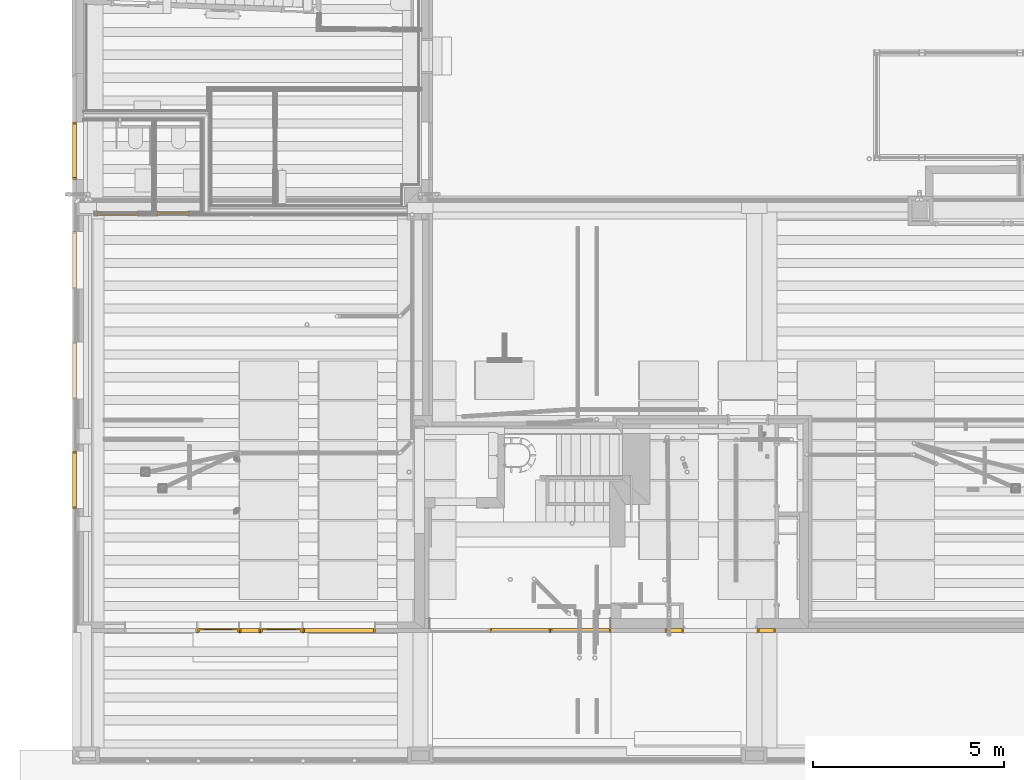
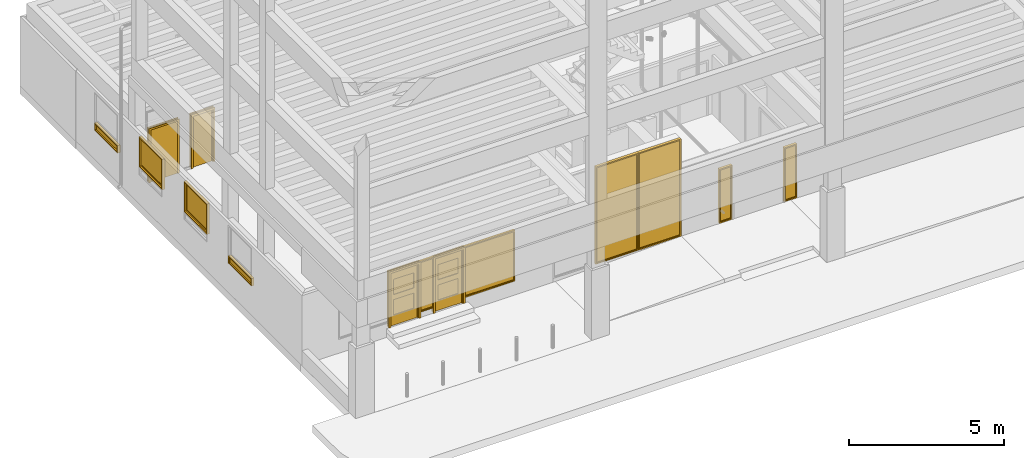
# One storey, part 27 of 106: 10 windows, 4 doors.
"""IFC2X3 building model written with IfcOpenShell, lengths in metres."""

import ifcopenshell
import ifcopenshell.guid

model = None  # the IFC model being written
_history = None  # IfcOwnerHistory: only IFC2X3 demands one
_inside = {}  # id of a spatial element -> (the spatial element, [elements in it])
_under = {}  # id of a project, library or spatial element -> (it, [spatial elements below it])
_declared = {}  # id of a project -> (the project, [libraries it declares])
_typed = {}  # id of a type object -> (the type object, [elements of that type])
_made_of = {}  # id of a material, layer set ... -> (it, [elements and type objects made of it])


def new_model(schema):
    """Start an empty IFC model of exactly this schema.

    Asked for "IFC4X3", IfcOpenShell would pick the latest addendum, in which some entities
    have other attributes; the version numbers below select the first issue.
    IFC2X3 requires an IfcOwnerHistory on every rooted entity: one is made here for all.
    """
    global model, _history
    if schema == "IFC4X3":
        model = ifcopenshell.file(schema_version=(4, 3, 0, 0))
    else:
        model = ifcopenshell.file(schema=schema)
    _inside.clear()
    _under.clear()
    _declared.clear()
    _typed.clear()
    _made_of.clear()
    _history = None
    if model.schema == "IFC2X3":
        org = make("IfcOrganization", Name="unknown")
        user = make(
            "IfcPersonAndOrganization",
            ThePerson=make("IfcPerson", FamilyName="unknown"),
            TheOrganization=org,
        )
        app = make(
            "IfcApplication",
            ApplicationDeveloper=org,
            Version="unknown",
            ApplicationFullName="unknown",
            ApplicationIdentifier="unknown",
        )
        _history = make(
            "IfcOwnerHistory",
            OwningUser=user,
            OwningApplication=app,
            ChangeAction="ADDED",
            CreationDate=0,
        )
    return model


def make(cls, **values):
    """One entity of the class cls with the attributes given. An attribute that is None is left unset."""
    return model.create_entity(
        cls, **{name: value for name, value in values.items() if value is not None}
    )


def entity(cls, *values):
    """Any entity or typed value of the class cls, its attributes in the order of the schema. None: left unset."""
    e = model.create_entity(cls)
    for i, value in enumerate(values):
        if value is not None:
            e[i] = value
    return e


def rooted(cls, **values):
    """An entity with a GlobalId (a new one), such as an element, a storey or a relation."""
    return make(cls, GlobalId=ifcopenshell.guid.new(), OwnerHistory=_history, **values)


def si_unit(unit_type, name, prefix=None):
    """IfcSIUnit, for example si_unit("LENGTHUNIT", "METRE", prefix="MILLI")."""
    return make("IfcSIUnit", UnitType=unit_type, Prefix=prefix, Name=name)


def converted_unit(unit_type, name, factor, base, dimensions=None, offset=None):
    """IfcConversionBasedUnit, such as the inch: factor (a typed value) times the base unit."""
    return make(
        "IfcConversionBasedUnit"
        if offset is None
        else "IfcConversionBasedUnitWithOffset",
        ConversionOffset=offset,
        Dimensions=None
        if dimensions is None
        else entity("IfcDimensionalExponents", *dimensions),
        UnitType=unit_type,
        Name=name,
        ConversionFactor=make(
            "IfcMeasureWithUnit", ValueComponent=factor, UnitComponent=base
        ),
    )


def derived_unit(unit_type, elements):
    """IfcDerivedUnit: a product of units, each with its exponent."""
    return make(
        "IfcDerivedUnit",
        Elements=[
            make("IfcDerivedUnitElement", Unit=unit, Exponent=power)
            for unit, power in elements
        ],
        UnitType=unit_type,
    )


def money_unit(currency):
    """IfcMonetaryUnit."""
    return make("IfcMonetaryUnit", Currency=currency)


def assignment(units):
    """IfcUnitAssignment: the units of a project."""
    return None if units is None else make("IfcUnitAssignment", Units=units)


def point(xyz):
    """IfcCartesianPoint."""
    return None if xyz is None else make("IfcCartesianPoint", Coordinates=xyz)


def direction(xyz):
    """IfcDirection."""
    return None if xyz is None else make("IfcDirection", DirectionRatios=xyz)


def frame(location, z_axis=None, x_axis=None):
    """IfcAxis2Placement3D, a coordinate frame: its origin and axes. An axis left out is left unset."""
    return make(
        "IfcAxis2Placement3D",
        Location=point(location),
        Axis=direction(z_axis),
        RefDirection=direction(x_axis),
    )


def origin_with_axes():
    """The frame at (0, 0, 0) with the z axis (0, 0, 1) and the x axis (1, 0, 0) written out."""
    return frame((0.0, 0.0, 0.0), z_axis=(0.0, 0.0, 1.0), x_axis=(1.0, 0.0, 0.0))


def place(relative_to, where):
    """IfcLocalPlacement: puts the frame where relative to a parent placement (None: the world)."""
    return make(
        "IfcLocalPlacement", PlacementRelTo=relative_to, RelativePlacement=where
    )


def context(
    kind, dimensions, precision=None, world=None, true_north=None, identifier=None
):
    """IfcGeometricRepresentationContext, for example the 3D "Model" context."""
    return make(
        "IfcGeometricRepresentationContext",
        ContextIdentifier=identifier,
        ContextType=kind,
        CoordinateSpaceDimension=dimensions,
        Precision=precision,
        WorldCoordinateSystem=world,
        TrueNorth=true_north,
    )


def subcontext(parent, identifier, kind, view, scale=None):
    """IfcGeometricRepresentationSubContext, for example "Body" below "Model"."""
    return make(
        "IfcGeometricRepresentationSubContext",
        ContextIdentifier=identifier,
        ContextType=kind,
        ParentContext=parent,
        TargetScale=scale,
        TargetView=view,
    )


def project(units=None, contexts=None):
    """IfcProject with its units and contexts."""
    return rooted(
        "IfcProject",
        Name="project",
        RepresentationContexts=contexts,
        UnitsInContext=assignment(units),
    )


def spatial(cls, under=None, at=None, **own):
    """A site, building, storey or space (cls), placed at a placement, below another one or the project."""
    s = rooted(cls, ObjectPlacement=at, **own)
    if under is not None:
        _under.setdefault(under.id(), (under, []))[1].append(s)
    return s


def faces_of(points, faces, orient=None, outer=None):
    """IfcFace entities. A face is a list of loops; a loop is a list of indices into points, from 0.

    orient and outer hold one flag for each loop. By default every Orientation is true, the
    first loop of a face is its IfcFaceOuterBound and the others are IfcFaceBound.
    """
    made = []
    for i, loops in enumerate(faces):
        bounds = []
        for j, loop in enumerate(loops):
            is_outer = j == 0 if outer is None else outer[i][j]
            bounds.append(
                make(
                    "IfcFaceOuterBound" if is_outer else "IfcFaceBound",
                    Bound=make("IfcPolyLoop", Polygon=[points[k] for k in loop]),
                    Orientation=True if orient is None else orient[i][j],
                )
            )
        made.append(make("IfcFace", Bounds=bounds))
    return made


def faceted_brep(points, faces, orient=None, outer=None, voids=None):
    """IfcFacetedBrep: a solid bounded by flat faces; with voids (closed shells), ...WithVoids."""
    shared = [point(p) for p in points]
    hull = make("IfcClosedShell", CfsFaces=faces_of(shared, faces, orient, outer))
    if voids is None:
        return make("IfcFacetedBrep", Outer=hull)
    return make(
        "IfcFacetedBrepWithVoids",
        Outer=hull,
        Voids=[
            make(cls, CfsFaces=faces_of(shared, fs, o, b)) for cls, fs, o, b in voids
        ],
    )


def shape(context_of_items, identifier, shape_type, items):
    """IfcShapeRepresentation: the items that make up one representation, for example the "Body"."""
    return make(
        "IfcShapeRepresentation",
        ContextOfItems=context_of_items,
        RepresentationIdentifier=identifier,
        RepresentationType=shape_type,
        Items=items,
    )


def material(Name=None, Category=None):
    """IfcMaterial."""
    return make("IfcMaterial", Name=Name, Category=Category)


def made_of(thing, what):
    """Note that an element or type object is made of a material, layer set ...; save() writes the relation."""
    if what is not None:
        _made_of.setdefault(what.id(), (what, []))[1].append(thing)
    return thing


def type_object(cls, material=None, **own):
    """A type object (cls), such as IfcWallType, which elements share."""
    return made_of(rooted(cls, **own), material)


def element(
    cls,
    number,
    at=None,
    inside=None,
    cuts=None,
    type_object=None,
    material=None,
    context=None,
    identifier="Body",
    shape_type=None,
    held_by="IfcProductDefinitionShape",
    body=None,
    shapes=None,
    **own,
):
    """One element of the class cls, such as IfcWall. Its Tag is "e" and its number.

    at: its placement. inside: the storey or other place that contains it. cuts: it is an
    opening in that element (IfcRelVoidsElement). A single representation is given by context,
    identifier, shape_type and body (its items); several are given by shapes. held_by: the class
    of the entity that holds the representations. save() writes the other relations.
    """
    e = rooted(cls, Tag="e%d" % number, ObjectPlacement=at, **own)
    if body is not None:
        shapes = [shape(context, identifier, shape_type, body)]
    if shapes is not None:
        e.Representation = make(held_by, Representations=shapes)
    if inside is not None:
        _inside.setdefault(inside.id(), (inside, []))[1].append(e)
    if cuts is not None:
        rooted(
            "IfcRelVoidsElement", RelatingBuildingElement=cuts, RelatedOpeningElement=e
        )
    if type_object is not None:
        _typed.setdefault(type_object.id(), (type_object, []))[1].append(e)
    return made_of(e, material)


def aggregate(whole, parts):
    """IfcRelAggregates: a whole, such as a stair, and the parts it consists of."""
    return rooted("IfcRelAggregates", RelatingObject=whole, RelatedObjects=parts)


def save(model, path):
    """Write the relations noted so far, then the file.

    IfcRelAggregates (storeys below a building ...), IfcRelContainedInSpatialStructure (elements
    in a storey), IfcRelDefinesByType, IfcRelAssociatesMaterial and IfcRelDeclares: one each for
    every whole, place, type object, material and project.
    """
    for whole, parts in _under.values():
        aggregate(whole, parts)
    for where, things in _inside.values():
        rooted(
            "IfcRelContainedInSpatialStructure",
            RelatedElements=things,
            RelatingStructure=where,
        )
    for kind, things in _typed.values():
        rooted("IfcRelDefinesByType", RelatedObjects=things, RelatingType=kind)
    for what, things in _made_of.values():
        rooted("IfcRelAssociatesMaterial", RelatedObjects=things, RelatingMaterial=what)
    for by, libraries in _declared.values():
        rooted("IfcRelDeclares", RelatingContext=by, RelatedDefinitions=libraries)
    model.write(path)


model = new_model("IFC2X3")

# Units and contexts
model_context = context("Model", 3, precision=1e-05, world=origin_with_axes(), true_north=direction((0.0, 1.0)))
body_context = subcontext(model_context, "Body", "Model", "MODEL_VIEW", scale=1.0)
ifc_project = project(units=[si_unit("LENGTHUNIT", "METRE"), si_unit("AREAUNIT", "SQUARE_METRE"), si_unit("VOLUMEUNIT", "CUBIC_METRE"), si_unit("ABSORBEDDOSEUNIT", "GRAY"), si_unit("AMOUNTOFSUBSTANCEUNIT", "MOLE"), si_unit("DOSEEQUIVALENTUNIT", "SIEVERT"), si_unit("ELECTRICCAPACITANCEUNIT", "FARAD"), si_unit("ELECTRICCHARGEUNIT", "COULOMB"), si_unit("ELECTRICCONDUCTANCEUNIT", "SIEMENS"), si_unit("ELECTRICCURRENTUNIT", "AMPERE"), si_unit("ELECTRICRESISTANCEUNIT", "OHM"), si_unit("ELECTRICVOLTAGEUNIT", "VOLT"), si_unit("ENERGYUNIT", "JOULE"), si_unit("FORCEUNIT", "NEWTON"), si_unit("FREQUENCYUNIT", "HERTZ"), si_unit("ILLUMINANCEUNIT", "LUX"), si_unit("INDUCTANCEUNIT", "HENRY"), si_unit("LUMINOUSFLUXUNIT", "LUMEN"), si_unit("LUMINOUSINTENSITYUNIT", "CANDELA"), si_unit("MAGNETICFLUXDENSITYUNIT", "TESLA"), si_unit("MAGNETICFLUXUNIT", "WEBER"), si_unit("MASSUNIT", "GRAM"), converted_unit("PLANEANGLEUNIT", "degree", entity("IfcReal", 0.0174532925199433), si_unit("PLANEANGLEUNIT", "RADIAN"), dimensions=[0, 0, 0, 0, 0, 0, 0]), si_unit("POWERUNIT", "WATT"), si_unit("PRESSUREUNIT", "PASCAL"), si_unit("RADIOACTIVITYUNIT", "BECQUEREL"), si_unit("SOLIDANGLEUNIT", "STERADIAN"), si_unit("THERMODYNAMICTEMPERATUREUNIT", "KELVIN"), si_unit("TIMEUNIT", "SECOND"), derived_unit("ACCELERATIONUNIT", [(si_unit("LENGTHUNIT", "METRE"), 1), (si_unit("TIMEUNIT", "SECOND"), -2)]), derived_unit("ANGULARVELOCITYUNIT", [(converted_unit("PLANEANGLEUNIT", "degree", entity("IfcReal", 0.0174532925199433), si_unit("PLANEANGLEUNIT", "RADIAN"), dimensions=[0, 0, 0, 0, 0, 0, 0]), 1), (si_unit("TIMEUNIT", "SECOND"), -1)]), derived_unit("CURVATUREUNIT", [(converted_unit("PLANEANGLEUNIT", "degree", entity("IfcReal", 0.0174532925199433), si_unit("PLANEANGLEUNIT", "RADIAN"), dimensions=[0, 0, 0, 0, 0, 0, 0]), 1), (si_unit("LENGTHUNIT", "METRE"), -1)]), derived_unit("DYNAMICVISCOSITYUNIT", [(si_unit("PRESSUREUNIT", "PASCAL"), 1), (si_unit("TIMEUNIT", "SECOND"), 1)]), derived_unit("HEATFLUXDENSITYUNIT", [(si_unit("POWERUNIT", "WATT"), 1), (si_unit("LENGTHUNIT", "METRE"), -2)]), derived_unit("HEATINGVALUEUNIT", [(si_unit("ENERGYUNIT", "JOULE"), 1), (si_unit("MASSUNIT", "GRAM"), -1)]), derived_unit("INTEGERCOUNTRATEUNIT", [(si_unit("TIMEUNIT", "SECOND"), -1)]), derived_unit("IONCONCENTRATIONUNIT", [(si_unit("MASSUNIT", "GRAM"), 1), (si_unit("VOLUMEUNIT", "CUBIC_METRE"), -1)]), derived_unit("ISOTHERMALMOISTURECAPACITYUNIT", [(si_unit("VOLUMEUNIT", "CUBIC_METRE"), 1), (si_unit("MASSUNIT", "GRAM"), -1)]), derived_unit("KINEMATICVISCOSITYUNIT", [(si_unit("AREAUNIT", "SQUARE_METRE"), 1), (si_unit("TIMEUNIT", "SECOND"), -1)]), derived_unit("LINEARFORCEUNIT", [(si_unit("FORCEUNIT", "NEWTON"), 1), (si_unit("LENGTHUNIT", "METRE"), -1)]), derived_unit("LINEARMOMENTUNIT", [(si_unit("FORCEUNIT", "NEWTON"), 1), (si_unit("LENGTHUNIT", "METRE"), -1)]), derived_unit("LINEARSTIFFNESSUNIT", [(si_unit("FORCEUNIT", "NEWTON"), 1), (si_unit("LENGTHUNIT", "METRE"), -1)]), derived_unit("LINEARVELOCITYUNIT", [(si_unit("LENGTHUNIT", "METRE"), 1), (si_unit("TIMEUNIT", "SECOND"), -1)]), derived_unit("LUMINOUSINTENSITYDISTRIBUTIONUNIT", [(si_unit("LUMINOUSINTENSITYUNIT", "CANDELA"), 1), (si_unit("LUMINOUSFLUXUNIT", "LUMEN"), -1)]), derived_unit("MASSDENSITYUNIT", [(si_unit("MASSUNIT", "GRAM"), 1), (si_unit("VOLUMEUNIT", "CUBIC_METRE"), -1)]), derived_unit("MASSFLOWRATEUNIT", [(si_unit("MASSUNIT", "GRAM"), 1), (si_unit("TIMEUNIT", "SECOND"), -1)]), derived_unit("MASSPERLENGTHUNIT", [(si_unit("MASSUNIT", "GRAM"), 1), (si_unit("LENGTHUNIT", "METRE"), -1)]), derived_unit("MODULUSOFELASTICITYUNIT", [(si_unit("FORCEUNIT", "NEWTON"), 1), (si_unit("AREAUNIT", "SQUARE_METRE"), -1)]), derived_unit("MODULUSOFLINEARSUBGRADEREACTIONUNIT", [(si_unit("FORCEUNIT", "NEWTON"), 1), (si_unit("LENGTHUNIT", "METRE"), -2)]), derived_unit("MODULUSOFROTATIONALSUBGRADEREACTIONUNIT", [(si_unit("FORCEUNIT", "NEWTON"), 1), (si_unit("LENGTHUNIT", "METRE"), 1)]), derived_unit("MODULUSOFSUBGRADEREACTIONUNIT", [(si_unit("FORCEUNIT", "NEWTON"), 1), (si_unit("VOLUMEUNIT", "CUBIC_METRE"), -1)]), derived_unit("MOISTUREDIFFUSIVITYUNIT", [(si_unit("VOLUMEUNIT", "CUBIC_METRE"), 1), (si_unit("TIMEUNIT", "SECOND"), -1)]), derived_unit("MOLECULARWEIGHTUNIT", [(si_unit("MASSUNIT", "GRAM"), 1), (si_unit("AMOUNTOFSUBSTANCEUNIT", "MOLE"), -1)]), derived_unit("PLANARFORCEUNIT", [(si_unit("FORCEUNIT", "NEWTON"), 1), (si_unit("LENGTHUNIT", "METRE"), -2)]), derived_unit("ROTATIONALFREQUENCYUNIT", [(si_unit("TIMEUNIT", "SECOND"), -1)]), derived_unit("ROTATIONALMASSUNIT", [(si_unit("MASSUNIT", "GRAM"), 1), (si_unit("LENGTHUNIT", "METRE"), 2)]), derived_unit("ROTATIONALSTIFFNESSUNIT", [(si_unit("FORCEUNIT", "NEWTON"), 1), (si_unit("LENGTHUNIT", "METRE"), 1), (converted_unit("PLANEANGLEUNIT", "degree", entity("IfcReal", 0.0174532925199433), si_unit("PLANEANGLEUNIT", "RADIAN"), dimensions=[0, 0, 0, 0, 0, 0, 0]), -1)]), derived_unit("SECTIONAREAINTEGRALUNIT", [(si_unit("LENGTHUNIT", "METRE"), 5)]), derived_unit("SECTIONMODULUSUNIT", [(si_unit("LENGTHUNIT", "METRE"), 3)]), derived_unit("SHEARMODULUSUNIT", [(si_unit("FORCEUNIT", "NEWTON"), 1), (si_unit("AREAUNIT", "SQUARE_METRE"), -1)]), derived_unit("SOUNDPOWERUNIT", [(si_unit("ENERGYUNIT", "JOULE"), 1), (si_unit("TIMEUNIT", "SECOND"), -1)]), derived_unit("SPECIFICHEATCAPACITYUNIT", [(si_unit("FORCEUNIT", "NEWTON"), 1), (si_unit("MASSUNIT", "GRAM"), -1), (si_unit("THERMODYNAMICTEMPERATUREUNIT", "KELVIN"), -1)]), derived_unit("TEMPERATUREGRADIENTUNIT", [(si_unit("THERMODYNAMICTEMPERATUREUNIT", "KELVIN"), 1), (si_unit("LENGTHUNIT", "METRE"), -1)]), derived_unit("THERMALADMITTANCEUNIT", [(si_unit("POWERUNIT", "WATT"), 1), (si_unit("AREAUNIT", "SQUARE_METRE"), -1), (si_unit("THERMODYNAMICTEMPERATUREUNIT", "KELVIN"), -1)]), derived_unit("THERMALCONDUCTANCEUNIT", [(si_unit("POWERUNIT", "WATT"), 1), (si_unit("LENGTHUNIT", "METRE"), -1), (si_unit("THERMODYNAMICTEMPERATUREUNIT", "KELVIN"), -1)]), derived_unit("THERMALEXPANSIONCOEFFICIENTUNIT", [(si_unit("THERMODYNAMICTEMPERATUREUNIT", "KELVIN"), -1)]), derived_unit("THERMALRESISTANCEUNIT", [(si_unit("AREAUNIT", "SQUARE_METRE"), 1), (si_unit("POWERUNIT", "WATT"), -1)]), derived_unit("THERMALTRANSMITTANCEUNIT", [(si_unit("POWERUNIT", "WATT"), 1), (si_unit("AREAUNIT", "SQUARE_METRE"), -1), (si_unit("THERMODYNAMICTEMPERATUREUNIT", "KELVIN"), -1)]), derived_unit("TORQUEUNIT", [(si_unit("FORCEUNIT", "NEWTON"), 1), (si_unit("LENGTHUNIT", "METRE"), 1)]), derived_unit("VAPORPERMEABILITYUNIT", [(si_unit("MASSUNIT", "GRAM"), 1), (si_unit("TIMEUNIT", "SECOND"), -1)]), derived_unit("VOLUMETRICFLOWRATEUNIT", [(si_unit("VOLUMEUNIT", "CUBIC_METRE"), 1), (si_unit("TIMEUNIT", "SECOND"), -1)]), derived_unit("WARPINGCONSTANTUNIT", [(si_unit("LENGTHUNIT", "METRE"), 6)]), derived_unit("WARPINGMOMENTUNIT", [(si_unit("FORCEUNIT", "NEWTON"), 1), (si_unit("LENGTHUNIT", "METRE"), 2)]), money_unit("GBP")], contexts=[model_context])

# Site, building, storey, space
site_placement = place(None, origin_with_axes())
site = spatial("IfcSite", under=ifc_project, at=site_placement, Name="Site", CompositionType="ELEMENT")
building_placement = place(site_placement, origin_with_axes())
building = spatial("IfcBuilding", under=site, at=building_placement, Name="Building01", CompositionType="ELEMENT")
storey_placement = place(building_placement, origin_with_axes())
storey = spatial("IfcBuildingStorey", under=building, at=storey_placement, Name="GF", CompositionType="ELEMENT", Elevation=0.0)
space_1_placement = place(storey_placement, frame((0.665095, 0.0, 0.0), z_axis=(0.0, 0.0, 1.0), x_axis=(1.0, -4.064e-05, 0.0)))
space_1 = spatial("IfcSpace", under=storey, at=space_1_placement, Name="UNDERCROFT (front)", CompositionType="ELEMENT", InteriorOrExteriorSpace="NOTDEFINED")

# Windows
ifc_material_1 = material(Name="A_BSUK_Window_Frames")
window_style_1 = type_object("IfcWindowStyle", Name="A-Fixed", ConstructionType="NOTDEFINED", OperationType="USERDEFINED", ParameterTakesPrecedence=False, Sizeable=False)
window_1_placement = place(storey_placement, frame((4.926681, 3.458391, 0.398), z_axis=(0.0, 0.0, 1.0), x_axis=(1.0, 0.0, 0.0)))
element("IfcWindow", 1, at=window_1_placement, inside=space_1, type_object=window_style_1, material=ifc_material_1, Name="0.03", ObjectType="A-Fixed", OverallHeight=2.00000000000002, OverallWidth=0.550000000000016, context=body_context, shape_type="Brep", body=[
    faceted_brep([(-0.042, 0.0, 0.042), (-0.042, 0.0, 1.958), (-0.042, 0.1, 1.958), (-0.042, 0.1, 0.042), (0.0, 0.1, 2.0), (-0.55, 0.1, 2.0), (-0.55, 0.0, 2.0), (0.0, 0.0, 2.0), (0.0, 0.1, 0.0), (0.0, 0.0, 0.0), (-0.55, 0.1, 0.0), (-0.55, 0.0, 0.0), (-0.508, 0.1, 1.958), (-0.508, 0.1, 0.042), (-0.508, 0.0, 0.042), (-0.508, 0.0, 1.958)], [[[0, 1, 2, 3]], [[4, 5, 6, 7]], [[8, 4, 7, 9]], [[10, 8, 9, 11]], [[5, 10, 11, 6]], [[5, 4, 8, 10], [3, 2, 12, 13]], [[14, 0, 3, 13]], [[15, 14, 13, 12]], [[1, 15, 12, 2]], [[9, 7, 6, 11], [15, 1, 0, 14]]]),
    faceted_brep([(-0.042, 0.053175, 1.958), (-0.042, 0.046825, 1.958), (-0.042, 0.046825, 0.042), (-0.042, 0.053175, 0.042), (-0.508, 0.053175, 0.042), (-0.508, 0.046825, 0.042), (-0.508, 0.046825, 1.958), (-0.508, 0.053175, 1.958)], [[[0, 1, 2, 3]], [[4, 5, 6, 7]], [[3, 2, 5, 4]], [[3, 4, 7, 0]], [[7, 6, 1, 0]], [[1, 6, 5, 2]]]),
])
window_2_placement = place(storey_placement, frame((7.941681, 3.458391, 0.398), z_axis=(0.0, 0.0, 1.0), x_axis=(1.0, 0.0, 0.0)))
element("IfcWindow", 2, at=window_2_placement, inside=space_1, type_object=window_style_1, material=ifc_material_1, Name="0.04", ObjectType="A-Fixed", OverallHeight=2.00000000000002, OverallWidth=1.90000000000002, context=body_context, shape_type="Brep", body=[
    faceted_brep([(-0.042, 0.0, 0.042), (-0.042, 0.0, 1.958), (-0.042, 0.1, 1.958), (-0.042, 0.1, 0.042), (0.0, 0.1, 2.0), (-1.9, 0.1, 2.0), (-1.9, 0.0, 2.0), (0.0, 0.0, 2.0), (0.0, 0.1, 0.0), (0.0, 0.0, 0.0), (-1.9, 0.1, 0.0), (-1.9, 0.0, 0.0), (-1.858, 0.1, 1.958), (-1.858, 0.1, 0.042), (-1.858, 0.0, 0.042), (-1.858, 0.0, 1.958)], [[[0, 1, 2, 3]], [[4, 5, 6, 7]], [[8, 4, 7, 9]], [[10, 8, 9, 11]], [[5, 10, 11, 6]], [[5, 4, 8, 10], [3, 2, 12, 13]], [[14, 0, 3, 13]], [[15, 14, 13, 12]], [[1, 15, 12, 2]], [[9, 7, 6, 11], [15, 1, 0, 14]]]),
    faceted_brep([(-0.042, 0.053175, 1.958), (-0.042, 0.046825, 1.958), (-0.042, 0.046825, 0.042), (-0.042, 0.053175, 0.042), (-1.858, 0.053175, 0.042), (-1.858, 0.046825, 0.042), (-1.858, 0.046825, 1.958), (-1.858, 0.053175, 1.958)], [[[0, 1, 2, 3]], [[4, 5, 6, 7]], [[3, 2, 5, 4]], [[3, 4, 7, 0]], [[7, 6, 1, 0]], [[1, 6, 5, 2]]]),
])

# Space
space_2_placement = place(storey_placement, frame((3.380525, 16.69365, 0.216987), z_axis=(0.0, 0.0, 1.0), x_axis=(-1.0, 0.0, 0.0)))
space_2 = spatial("IfcSpace", under=storey, at=space_2_placement, Name="0", CompositionType="ELEMENT", InteriorOrExteriorSpace="NOTDEFINED")

# Window
window_3_placement = place(storey_placement, frame((0.000252, 6.710738, 0.998), z_axis=(0.0, 0.0, 1.0), x_axis=(0.0, -1.0, 0.0)))
element("IfcWindow", 3, at=window_3_placement, inside=space_2, type_object=window_style_1, material=ifc_material_1, Name="0.11", ObjectType="A-Fixed", OverallHeight=0.300000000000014, OverallWidth=1.50000000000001, context=body_context, shape_type="Brep", body=[
    faceted_brep([(-0.042, 0.0, 0.042), (-0.042, 0.0, 0.258), (-0.042, 0.1, 0.258), (-0.042, 0.1, 0.042), (0.0, 0.1, 0.3), (-1.5, 0.1, 0.3), (-1.5, 0.0, 0.3), (0.0, 0.0, 0.3), (0.0, 0.1, 0.0), (0.0, 0.0, 0.0), (-1.5, 0.1, 0.0), (-1.5, 0.0, 0.0), (-1.458, 0.1, 0.258), (-1.458, 0.1, 0.042), (-1.458, 0.0, 0.042), (-1.458, 0.0, 0.258)], [[[0, 1, 2, 3]], [[4, 5, 6, 7]], [[8, 4, 7, 9]], [[10, 8, 9, 11]], [[5, 10, 11, 6]], [[5, 4, 8, 10], [3, 2, 12, 13]], [[14, 0, 3, 13]], [[15, 14, 13, 12]], [[1, 15, 12, 2]], [[9, 7, 6, 11], [15, 1, 0, 14]]]),
    faceted_brep([(-0.042, 0.053175, 0.258), (-0.042, 0.046825, 0.258), (-0.042, 0.046825, 0.042), (-0.042, 0.053175, 0.042), (-1.458, 0.053175, 0.042), (-1.458, 0.046825, 0.042), (-1.458, 0.046825, 0.258), (-1.458, 0.053175, 0.258)], [[[0, 1, 2, 3]], [[4, 5, 6, 7]], [[3, 2, 5, 4]], [[3, 4, 7, 0]], [[7, 6, 1, 0]], [[1, 6, 5, 2]]]),
])

# Space
space_3_placement = place(storey_placement, frame((0.280851, 16.893647, 0.217025), z_axis=(0.0, 0.0, 1.0), x_axis=(0.0, -1.0, 0.0)))
space_3 = spatial("IfcSpace", under=storey, at=space_3_placement, Name="F", CompositionType="ELEMENT", InteriorOrExteriorSpace="NOTDEFINED")

# Windows
window_4_placement = place(storey_placement, frame((0.000573, 15.34279, 0.998), z_axis=(0.0, 0.0, 1.0), x_axis=(0.0, -1.0, 0.0)))
element("IfcWindow", 4, at=window_4_placement, inside=space_3, type_object=window_style_1, material=ifc_material_1, Name="0.16", ObjectType="A-Fixed", OverallHeight=0.300000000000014, OverallWidth=1.50000000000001, context=body_context, shape_type="Brep", body=[
    faceted_brep([(-0.042, 0.0, 0.042), (-0.042, 0.0, 0.258), (-0.042, 0.1, 0.258), (-0.042, 0.1, 0.042), (0.0, 0.1, 0.3), (-1.5, 0.1, 0.3), (-1.5, 0.0, 0.3), (0.0, 0.0, 0.3), (0.0, 0.1, 0.0), (0.0, 0.0, 0.0), (-1.5, 0.1, 0.0), (-1.5, 0.0, 0.0), (-1.458, 0.1, 0.258), (-1.458, 0.1, 0.042), (-1.458, 0.0, 0.042), (-1.458, 0.0, 0.258)], [[[0, 1, 2, 3]], [[4, 5, 6, 7]], [[8, 4, 7, 9]], [[10, 8, 9, 11]], [[5, 10, 11, 6]], [[5, 4, 8, 10], [3, 2, 12, 13]], [[14, 0, 3, 13]], [[15, 14, 13, 12]], [[1, 15, 12, 2]], [[9, 7, 6, 11], [15, 1, 0, 14]]]),
    faceted_brep([(-0.042, 0.053175, 0.258), (-0.042, 0.046825, 0.258), (-0.042, 0.046825, 0.042), (-0.042, 0.053175, 0.042), (-1.458, 0.053175, 0.042), (-1.458, 0.046825, 0.042), (-1.458, 0.046825, 0.258), (-1.458, 0.053175, 0.258)], [[[0, 1, 2, 3]], [[4, 5, 6, 7]], [[3, 2, 5, 4]], [[3, 4, 7, 0]], [[7, 6, 1, 0]], [[1, 6, 5, 2]]]),
])
for number, where, z_axis, x_axis, name in (
    (5, (12.534099, 3.458391, 0.0), (0.0, 0.0, 1.0), (1.0, 0.0, 0.0), "0.05"),
    (6, (14.124099, 3.458391, 0.0), (0.0, 0.0, 1.0), (1.0, 0.0, 0.0), "0.07"),
):
    element("IfcWindow", number, at=place(storey_placement, frame(where, z_axis=z_axis, x_axis=x_axis)), inside=space_1, type_object=window_style_1, material=ifc_material_1, Name=name, ObjectType="A-Fixed", OverallHeight=3.83000000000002, OverallWidth=1.59000000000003, context=body_context, shape_type="Brep", body=[
        faceted_brep([(-0.042, 0.0, 0.042), (-0.042, 0.0, 3.788), (-0.042, 0.1, 3.788), (-0.042, 0.1, 0.042), (0.0, 0.1, 3.83), (-1.59, 0.1, 3.83), (-1.59, 0.0, 3.83), (0.0, 0.0, 3.83), (0.0, 0.1, 0.0), (0.0, 0.0, 0.0), (-1.59, 0.1, 0.0), (-1.59, 0.0, 0.0), (-1.548, 0.1, 3.788), (-1.548, 0.1, 0.042), (-1.548, 0.0, 0.042), (-1.548, 0.0, 3.788)], [[[0, 1, 2, 3]], [[4, 5, 6, 7]], [[8, 4, 7, 9]], [[10, 8, 9, 11]], [[5, 10, 11, 6]], [[5, 4, 8, 10], [3, 2, 12, 13]], [[14, 0, 3, 13]], [[15, 14, 13, 12]], [[1, 15, 12, 2]], [[9, 7, 6, 11], [15, 1, 0, 14]]]),
        faceted_brep([(-0.042, 0.053175, 3.788), (-0.042, 0.046825, 3.788), (-0.042, 0.046825, 0.042), (-0.042, 0.053175, 0.042), (-1.548, 0.053175, 0.042), (-1.548, 0.046825, 0.042), (-1.548, 0.046825, 3.788), (-1.548, 0.053175, 3.788)], [[[0, 1, 2, 3]], [[4, 5, 6, 7]], [[3, 2, 5, 4]], [[3, 4, 7, 0]], [[7, 6, 1, 0]], [[1, 6, 5, 2]]]),
    ])
for number, where, z_axis, x_axis, name in (
    (7, (16.026223, 3.458391, 0.0), (0.0, 0.0, 1.0), (1.0, 0.0, 0.0), "0.24"),
    (8, (18.440223, 3.458391, 0.0), (0.0, 0.0, 1.0), (1.0, 0.0, 0.0), "0.25"),
):
    element("IfcWindow", number, at=place(storey_placement, frame(where, z_axis=z_axis, x_axis=x_axis)), inside=space_1, type_object=window_style_1, material=ifc_material_1, Name=name, ObjectType="A-Fixed", OverallHeight=2.12700000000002, OverallWidth=0.480000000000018, context=body_context, shape_type="Brep", body=[
        faceted_brep([(-0.042, 0.0, 0.042), (-0.042, 0.0, 2.085), (-0.042, 0.1, 2.085), (-0.042, 0.1, 0.042), (0.0, 0.1, 2.127), (-0.48, 0.1, 2.127), (-0.48, 0.0, 2.127), (0.0, 0.0, 2.127), (0.0, 0.1, 0.0), (0.0, 0.0, 0.0), (-0.48, 0.1, 0.0), (-0.48, 0.0, 0.0), (-0.438, 0.1, 2.085), (-0.438, 0.1, 0.042), (-0.438, 0.0, 0.042), (-0.438, 0.0, 2.085)], [[[0, 1, 2, 3]], [[4, 5, 6, 7]], [[8, 4, 7, 9]], [[10, 8, 9, 11]], [[5, 10, 11, 6]], [[5, 4, 8, 10], [3, 2, 12, 13]], [[14, 0, 3, 13]], [[15, 14, 13, 12]], [[1, 15, 12, 2]], [[9, 7, 6, 11], [15, 1, 0, 14]]]),
        faceted_brep([(-0.042, 0.053175, 2.085), (-0.042, 0.046825, 2.085), (-0.042, 0.046825, 0.042), (-0.042, 0.053175, 0.042), (-0.438, 0.053175, 0.042), (-0.438, 0.046825, 0.042), (-0.438, 0.046825, 2.085), (-0.438, 0.053175, 2.085)], [[[0, 1, 2, 3]], [[4, 5, 6, 7]], [[3, 2, 5, 4]], [[3, 4, 7, 0]], [[7, 6, 1, 0]], [[1, 6, 5, 2]]]),
    ])
ifc_material_2 = material(Name="A_BSUK_Windows")
window_style_2 = type_object("IfcWindowStyle", Name="A-Awning", ConstructionType="NOTDEFINED", OperationType="USERDEFINED", ParameterTakesPrecedence=False, Sizeable=False)
for number, where, z_axis, x_axis, name in (
    (9, (0.12576, 9.575468, 1.298), (0.0, 0.0, 1.0), (0.0, 1.0, 0.0), "0.12"),
    (10, (0.125868, 12.468993, 1.298), (0.0, 0.0, 1.0), (0.0, 1.0, 0.0), "0.14"),
):
    element("IfcWindow", number, at=place(storey_placement, frame(where, z_axis=z_axis, x_axis=x_axis)), inside=space_2, type_object=window_style_2, material=ifc_material_2, Name=name, ObjectType="A-Awning", OverallHeight=1.20000000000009, OverallWidth=1.50000000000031, context=body_context, shape_type="Brep", body=[
        faceted_brep([(1.458, 0.1254, 0.042), (0.042, 0.1254, 0.042), (0.042, 0.0254, 0.042), (1.458, 0.0254, 0.042), (1.458, 0.1254, 1.158), (1.458, 0.0254, 1.158), (0.042, 0.1254, 1.158), (0.042, 0.0254, 1.158), (1.5, 0.0254, 0.0), (1.5, 0.0254, 1.2), (0.0, 0.0254, 1.2), (0.0, 0.0254, 0.0), (1.5, 0.1254, 1.2), (0.0, 0.1254, 1.2), (0.0, 0.1254, 0.0), (1.5, 0.1254, 0.0)], [[[0, 1, 2, 3]], [[4, 0, 3, 5]], [[6, 4, 5, 7]], [[8, 9, 10, 11], [3, 2, 7, 5]], [[1, 6, 7, 2]], [[10, 9, 12, 13]], [[8, 11, 14, 15]], [[9, 8, 15, 12]], [[15, 14, 13, 12], [0, 4, 6, 1]], [[11, 10, 13, 14]]]),
        faceted_brep([(1.4072, 0.0704, 0.0928), (0.0928, 0.0704, 0.0928), (0.0928, 0.0354, 0.0928), (1.4072, 0.0354, 0.0928), (1.4072, 0.0704, 1.1072), (1.4072, 0.0354, 1.1072), (0.0928, 0.0704, 1.1072), (0.0928, 0.0354, 1.1072), (1.458, 0.0704, 0.042), (0.042, 0.0704, 0.042), (0.042, 0.0704, 1.158), (1.458, 0.0704, 1.158), (0.042, 0.0354, 1.158), (1.458, 0.0354, 1.158), (0.042, 0.0354, 0.042), (1.458, 0.0354, 0.042)], [[[0, 1, 2, 3]], [[4, 0, 3, 5]], [[6, 4, 5, 7]], [[8, 9, 10, 11], [0, 4, 6, 1]], [[12, 13, 11, 10]], [[14, 12, 10, 9]], [[15, 14, 9, 8]], [[13, 15, 8, 11]], [[15, 13, 12, 14], [3, 2, 7, 5]], [[1, 6, 7, 2]]]),
        faceted_brep([(0.0928, 0.049725, 1.1072), (0.0928, 0.056075, 1.1072), (0.0928, 0.056075, 0.0928), (0.0928, 0.049725, 0.0928), (1.4072, 0.049725, 0.0928), (1.4072, 0.056075, 0.0928), (1.4072, 0.056075, 1.1072), (1.4072, 0.049725, 1.1072)], [[[0, 1, 2, 3]], [[4, 5, 6, 7]], [[7, 6, 1, 0]], [[3, 4, 7, 0]], [[3, 2, 5, 4]], [[1, 6, 5, 2]]]),
    ])

# Doors
ifc_material_3 = material(Name="A_BSUK_Doors")
door_style_1 = type_object("IfcDoorStyle", Name="A-Doors-SingleFlush", ConstructionType="USERDEFINED", OperationType="SINGLE_SWING_RIGHT", ParameterTakesPrecedence=False, Sizeable=False)
door_1_placement = place(storey_placement, frame((1.683113, 14.4, 0.198), z_axis=(0.0, 0.0, 1.0), x_axis=(-1.0, 0.0, 0.0)))
element("IfcDoor", 11, at=door_1_placement, inside=space_2, type_object=door_style_1, material=ifc_material_3, Name="0.15", ObjectType="A-Doors-SingleFlush", OverallHeight=2.12700000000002, OverallWidth=1.13800000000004, context=body_context, shape_type="Brep", body=[
    faceted_brep([(1.0, -0.099, 0.0), (1.069, -0.099, 0.0), (1.069, -0.099, 2.127), (-0.069, -0.099, 2.127), (-0.069, -0.099, 0.0), (0.0, -0.099, 0.0), (0.0, -0.099, 2.058), (1.0, -0.099, 2.058), (-0.069, -0.08, 0.0), (-0.069, -0.08, 2.127), (1.069, -0.08, 2.127), (1.069, -0.08, 0.0), (1.0, 0.019, 0.0), (1.069, 0.019, 0.0), (1.069, 0.0, 0.0), (1.042, 0.0, 0.0), (1.042, -0.08, 0.0), (1.0, 0.019, 2.058), (0.0, 0.019, 2.058), (0.0, 0.019, 0.0), (-0.069, 0.019, 0.0), (-0.069, 0.019, 2.127), (1.069, 0.019, 2.127), (1.069, 0.0, 2.127), (1.042, -0.08, 2.1), (1.042, 0.0, 2.1), (-0.042, -0.08, 2.1), (-0.042, 0.0, 2.1), (-0.042, -0.08, 0.0), (-0.042, 0.0, 0.0), (-0.069, 0.0, 2.127), (-0.069, 0.0, 0.0)], [[[0, 1, 2, 3, 4, 5, 6, 7]], [[8, 4, 3, 9]], [[10, 2, 1, 11]], [[9, 3, 2, 10]], [[12, 13, 14, 15, 16, 11, 1, 0]], [[7, 17, 12, 0]], [[6, 18, 17, 7]], [[18, 19, 20, 21, 22, 13, 12, 17]], [[5, 19, 18, 6]], [[13, 22, 23, 14]], [[24, 16, 15, 25]], [[26, 24, 25, 27]], [[11, 16, 24, 26, 28, 8, 9, 10]], [[27, 29, 28, 26]], [[25, 15, 14, 23, 30, 31, 29, 27]], [[5, 4, 8, 28, 29, 31, 20, 19]], [[30, 21, 20, 31]], [[23, 22, 21, 30]]]),
    faceted_brep([(0.0, -0.09, 2.058), (0.0, -0.04, 2.058), (0.0, -0.04, 0.0), (0.0, -0.09, 0.0), (0.975, -0.09, 0.0), (1.0, -0.09, 0.0), (1.0, -0.09, 2.058), (0.025, -0.09, 0.0), (0.025, -0.09, 2.033), (0.975, -0.09, 2.033), (0.975, -0.04, 0.0), (1.0, -0.04, 0.0), (1.0, -0.04, 2.058), (0.025, -0.04, 2.033), (0.025, -0.04, 0.0), (0.975, -0.04, 2.033)], [[[0, 1, 2, 3]], [[4, 5, 6, 0, 3, 7, 8, 9]], [[10, 11, 5, 4]], [[6, 12, 1, 0]], [[5, 11, 12, 6]], [[13, 14, 2, 1, 12, 11, 10, 15]], [[7, 14, 13, 8]], [[7, 3, 2, 14]], [[9, 15, 10, 4]], [[8, 13, 15, 9]]]),
    faceted_brep([(1.0, -0.04, 0.0), (1.0, 0.0, 0.0), (1.0, 0.0, 2.058), (1.0, -0.04, 2.058), (0.0, -0.04, 2.058), (0.0, 0.0, 2.058), (0.0, 0.0, 0.0), (0.0, -0.04, 0.0)], [[[0, 1, 2, 3]], [[4, 5, 6, 7]], [[7, 6, 1, 0]], [[3, 4, 7, 0]], [[3, 2, 5, 4]], [[1, 6, 5, 2]]]),
])
door_style_2 = type_object("IfcDoorStyle", Name="A-Doors-SingleVisionPanels", ConstructionType="USERDEFINED", OperationType="SINGLE_SWING_LEFT", ParameterTakesPrecedence=False, Sizeable=False)
door_2_placement = place(storey_placement, frame((3.299681, 3.558391, 0.198), z_axis=(0.0, 0.0, 1.0), x_axis=(1.0, 0.0, 0.0)))
element("IfcDoor", 12, at=door_2_placement, inside=space_2, type_object=door_style_2, material=ifc_material_3, Name="0.13", ObjectType="A-Doors-SingleVisionPanels", OverallHeight=2.19900000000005, OverallWidth=1.18800000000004, context=body_context, shape_type="Brep", body=[
    faceted_brep([(0.0, -0.119, 2.13), (1.05, -0.119, 2.13), (1.05, -0.119, 0.0), (1.119, -0.119, 0.0), (1.119, -0.119, 2.199), (-0.069, -0.119, 2.199), (-0.069, -0.119, 0.0), (0.0, -0.119, 0.0), (1.119, -0.1, 2.199), (1.119, -0.1, 0.0), (-0.069, -0.1, 0.0), (-0.069, -0.1, 2.199), (-0.042, -0.1, 0.0), (-0.042, 0.0, 0.0), (-0.069, 0.0, 0.0), (-0.069, 0.019, 0.0), (0.0, 0.019, 0.0), (0.0, 0.019, 2.13), (1.05, 0.019, 2.13), (-0.069, 0.019, 2.199), (1.119, 0.019, 2.199), (1.119, 0.019, 0.0), (1.05, 0.019, 0.0), (-0.069, 0.0, 2.199), (-0.042, 0.0, 2.172), (-0.042, -0.1, 2.172), (1.092, 0.0, 2.172), (1.092, -0.1, 2.172), (1.092, -0.1, 0.0), (1.092, 0.0, 0.0), (1.119, 0.0, 0.0), (1.119, 0.0, 2.199)], [[[0, 1, 2, 3, 4, 5, 6, 7]], [[8, 4, 3, 9]], [[10, 6, 5, 11]], [[11, 5, 4, 8]], [[7, 6, 10, 12, 13, 14, 15, 16]], [[7, 16, 17, 0]], [[0, 17, 18, 1]], [[17, 16, 15, 19, 20, 21, 22, 18]], [[1, 18, 22, 2]], [[14, 23, 19, 15]], [[24, 13, 12, 25]], [[26, 24, 25, 27]], [[11, 8, 9, 28, 27, 25, 12, 10]], [[27, 28, 29, 26]], [[26, 29, 30, 31, 23, 14, 13, 24]], [[22, 21, 30, 29, 28, 9, 3, 2]], [[30, 21, 20, 31]], [[31, 20, 19, 23]]]),
    faceted_brep([(1.05, -0.09, 0.0), (1.05, -0.04, 0.0), (1.05, -0.04, 2.13), (1.05, -0.09, 2.13), (0.025, -0.09, 2.105), (1.025, -0.09, 2.105), (1.025, -0.09, 0.0), (0.0, -0.09, 2.13), (0.0, -0.09, 0.0), (0.025, -0.09, 0.0), (0.0, -0.04, 0.0), (0.025, -0.04, 0.0), (0.0, -0.04, 2.13), (0.025, -0.04, 2.105), (1.025, -0.04, 0.0), (1.025, -0.04, 2.105)], [[[0, 1, 2, 3]], [[4, 5, 6, 0, 3, 7, 8, 9]], [[9, 8, 10, 11]], [[3, 2, 12, 7]], [[7, 12, 10, 8]], [[13, 11, 10, 12, 2, 1, 14, 15]], [[5, 15, 14, 6]], [[14, 1, 0, 6]], [[9, 11, 13, 4]], [[4, 13, 15, 5]]]),
    faceted_brep([(0.15, -0.017, 0.4), (0.15, -0.023, 0.4), (0.15, -0.023, 1.0), (0.15, -0.017, 1.0), (0.9, -0.017, 1.0), (0.9, -0.023, 1.0), (0.9, -0.023, 0.4), (0.9, -0.017, 0.4)], [[[0, 1, 2, 3]], [[4, 5, 6, 7]], [[3, 2, 5, 4]], [[3, 4, 7, 0]], [[7, 6, 1, 0]], [[1, 6, 5, 2]]]),
    faceted_brep([(0.15, -0.017, 1.2), (0.15, -0.023, 1.2), (0.15, -0.023, 1.8), (0.15, -0.017, 1.8), (0.9, -0.017, 1.8), (0.9, -0.023, 1.8), (0.9, -0.023, 1.2), (0.9, -0.017, 1.2)], [[[0, 1, 2, 3]], [[4, 5, 6, 7]], [[3, 2, 5, 4]], [[3, 4, 7, 0]], [[7, 6, 1, 0]], [[1, 6, 5, 2]]]),
    faceted_brep([(0.15, -0.04, 1.8), (0.15, 0.0, 1.8), (0.9, 0.0, 1.8), (0.9, -0.04, 1.8), (0.9, -0.04, 1.0), (0.9, 0.0, 1.0), (0.9, 0.0, 0.4), (0.9, -0.04, 0.4), (0.15, 0.0, 0.4), (0.15, -0.04, 0.4), (0.15, 0.0, 1.0), (0.15, -0.04, 1.0), (1.05, 0.0, 0.0), (0.0, 0.0, 0.0), (0.0, 0.0, 2.13), (1.05, 0.0, 2.13), (0.15, 0.0, 1.2), (0.9, 0.0, 1.2), (1.05, -0.04, 0.0), (1.05, -0.04, 2.13), (0.0, -0.04, 2.13), (0.0, -0.04, 0.0), (0.9, -0.04, 1.2), (0.15, -0.04, 1.2)], [[[0, 1, 2, 3]], [[4, 5, 6, 7]], [[7, 6, 8, 9]], [[9, 8, 10, 11]], [[11, 10, 5, 4]], [[12, 13, 14, 15], [5, 10, 8, 6], [2, 1, 16, 17]], [[18, 12, 15, 19]], [[19, 15, 14, 20]], [[20, 14, 13, 21]], [[21, 13, 12, 18]], [[3, 2, 17, 22]], [[22, 17, 16, 23]], [[23, 16, 1, 0]], [[19, 20, 21, 18], [9, 11, 4, 7], [23, 0, 3, 22]]]),
])
door_style_3 = type_object("IfcDoorStyle", Name="A-Doors-SingleVisionPanels", ConstructionType="USERDEFINED", OperationType="SINGLE_SWING_RIGHT", ParameterTakesPrecedence=False, Sizeable=False)
door_3_placement = place(storey_placement, frame((4.953681, 3.558391, 0.198), z_axis=(0.0, 0.0, 1.0), x_axis=(1.0, 0.0, 0.0)))
element("IfcDoor", 13, at=door_3_placement, inside=space_2, type_object=door_style_3, material=ifc_material_3, Name="0.14", ObjectType="A-Doors-SingleVisionPanels", OverallHeight=2.19900000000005, OverallWidth=1.18800000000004, context=body_context, shape_type="Brep", body=[
    faceted_brep([(1.05, -0.119, 0.0), (1.119, -0.119, 0.0), (1.119, -0.119, 2.199), (-0.069, -0.119, 2.199), (-0.069, -0.119, 0.0), (0.0, -0.119, 0.0), (0.0, -0.119, 2.13), (1.05, -0.119, 2.13), (-0.069, -0.1, 0.0), (-0.069, -0.1, 2.199), (1.119, -0.1, 2.199), (1.119, -0.1, 0.0), (1.05, 0.019, 0.0), (1.119, 0.019, 0.0), (1.119, 0.0, 0.0), (1.092, 0.0, 0.0), (1.092, -0.1, 0.0), (1.05, 0.019, 2.13), (0.0, 0.019, 2.13), (0.0, 0.019, 0.0), (-0.069, 0.019, 0.0), (-0.069, 0.019, 2.199), (1.119, 0.019, 2.199), (1.119, 0.0, 2.199), (1.092, -0.1, 2.172), (1.092, 0.0, 2.172), (-0.042, -0.1, 2.172), (-0.042, 0.0, 2.172), (-0.042, -0.1, 0.0), (-0.042, 0.0, 0.0), (-0.069, 0.0, 2.199), (-0.069, 0.0, 0.0)], [[[0, 1, 2, 3, 4, 5, 6, 7]], [[8, 4, 3, 9]], [[10, 2, 1, 11]], [[9, 3, 2, 10]], [[12, 13, 14, 15, 16, 11, 1, 0]], [[7, 17, 12, 0]], [[6, 18, 17, 7]], [[18, 19, 20, 21, 22, 13, 12, 17]], [[5, 19, 18, 6]], [[13, 22, 23, 14]], [[24, 16, 15, 25]], [[26, 24, 25, 27]], [[11, 16, 24, 26, 28, 8, 9, 10]], [[27, 29, 28, 26]], [[25, 15, 14, 23, 30, 31, 29, 27]], [[5, 4, 8, 28, 29, 31, 20, 19]], [[30, 21, 20, 31]], [[23, 22, 21, 30]]]),
    faceted_brep([(0.0, -0.09, 2.13), (0.0, -0.04, 2.13), (0.0, -0.04, 0.0), (0.0, -0.09, 0.0), (1.025, -0.09, 0.0), (1.05, -0.09, 0.0), (1.05, -0.09, 2.13), (0.025, -0.09, 0.0), (0.025, -0.09, 2.105), (1.025, -0.09, 2.105), (1.025, -0.04, 0.0), (1.05, -0.04, 0.0), (1.05, -0.04, 2.13), (0.025, -0.04, 2.105), (0.025, -0.04, 0.0), (1.025, -0.04, 2.105)], [[[0, 1, 2, 3]], [[4, 5, 6, 0, 3, 7, 8, 9]], [[10, 11, 5, 4]], [[6, 12, 1, 0]], [[5, 11, 12, 6]], [[13, 14, 2, 1, 12, 11, 10, 15]], [[7, 14, 13, 8]], [[7, 3, 2, 14]], [[9, 15, 10, 4]], [[8, 13, 15, 9]]]),
    faceted_brep([(0.9, -0.017, 1.0), (0.9, -0.023, 1.0), (0.9, -0.023, 0.4), (0.9, -0.017, 0.4), (0.15, -0.017, 0.4), (0.15, -0.023, 0.4), (0.15, -0.023, 1.0), (0.15, -0.017, 1.0)], [[[0, 1, 2, 3]], [[4, 5, 6, 7]], [[7, 6, 1, 0]], [[3, 4, 7, 0]], [[3, 2, 5, 4]], [[1, 6, 5, 2]]]),
    faceted_brep([(0.9, -0.017, 1.8), (0.9, -0.023, 1.8), (0.9, -0.023, 1.2), (0.9, -0.017, 1.2), (0.15, -0.017, 1.2), (0.15, -0.023, 1.2), (0.15, -0.023, 1.8), (0.15, -0.017, 1.8)], [[[0, 1, 2, 3]], [[4, 5, 6, 7]], [[7, 6, 1, 0]], [[3, 4, 7, 0]], [[3, 2, 5, 4]], [[1, 6, 5, 2]]]),
    faceted_brep([(0.15, -0.04, 1.8), (0.15, 0.0, 1.8), (0.9, 0.0, 1.8), (0.9, -0.04, 1.8), (0.15, -0.04, 0.4), (0.15, 0.0, 0.4), (0.15, 0.0, 1.0), (0.15, -0.04, 1.0), (0.9, -0.04, 0.4), (0.9, 0.0, 0.4), (0.9, -0.04, 1.0), (0.9, 0.0, 1.0), (0.0, 0.0, 2.13), (1.05, 0.0, 2.13), (1.05, 0.0, 0.0), (0.0, 0.0, 0.0), (0.15, 0.0, 1.2), (0.9, 0.0, 1.2), (0.0, -0.04, 2.13), (0.0, -0.04, 0.0), (1.05, -0.04, 2.13), (1.05, -0.04, 0.0), (0.15, -0.04, 1.2), (0.9, -0.04, 1.2)], [[[0, 1, 2, 3]], [[4, 5, 6, 7]], [[8, 9, 5, 4]], [[10, 11, 9, 8]], [[7, 6, 11, 10]], [[12, 13, 14, 15], [5, 9, 11, 6], [16, 17, 2, 1]], [[18, 12, 15, 19]], [[20, 13, 12, 18]], [[21, 14, 13, 20]], [[19, 15, 14, 21]], [[22, 16, 1, 0]], [[23, 17, 16, 22]], [[3, 2, 17, 23]], [[19, 21, 20, 18], [4, 7, 10, 8], [22, 0, 3, 23]]]),
])
door_style_4 = type_object("IfcDoorStyle", Name="A-Doors-SingleFlush", ConstructionType="USERDEFINED", OperationType="SINGLE_SWING_LEFT", ParameterTakesPrecedence=False, Sizeable=False)
door_4_placement = place(storey_placement, frame((2.255525, 14.48, 0.198), z_axis=(0.0, 0.0, 1.0), x_axis=(1.0, 0.0, 0.0)))
element("IfcDoor", 14, at=door_4_placement, inside=space_2, type_object=door_style_4, material=ifc_material_3, Name="0.16", ObjectType="A-Doors-SingleFlush", OverallHeight=2.12700000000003, OverallWidth=0.888000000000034, context=body_context, shape_type="Brep", body=[
    faceted_brep([(0.0, -0.099, 2.058), (0.75, -0.099, 2.058), (0.75, -0.099, 0.0), (0.819, -0.099, 0.0), (0.819, -0.099, 2.127), (-0.069, -0.099, 2.127), (-0.069, -0.099, 0.0), (0.0, -0.099, 0.0), (0.819, -0.08, 2.127), (0.819, -0.08, 0.0), (-0.069, -0.08, 0.0), (-0.069, -0.08, 2.127), (-0.042, -0.08, 0.0), (-0.042, 0.0, 0.0), (-0.069, 0.0, 0.0), (-0.069, 0.019, 0.0), (0.0, 0.019, 0.0), (0.0, 0.019, 2.058), (0.75, 0.019, 2.058), (-0.069, 0.019, 2.127), (0.819, 0.019, 2.127), (0.819, 0.019, 0.0), (0.75, 0.019, 0.0), (-0.069, 0.0, 2.127), (-0.042, 0.0, 2.1), (-0.042, -0.08, 2.1), (0.792, 0.0, 2.1), (0.792, -0.08, 2.1), (0.792, -0.08, 0.0), (0.792, 0.0, 0.0), (0.819, 0.0, 0.0), (0.819, 0.0, 2.127)], [[[0, 1, 2, 3, 4, 5, 6, 7]], [[8, 4, 3, 9]], [[10, 6, 5, 11]], [[11, 5, 4, 8]], [[7, 6, 10, 12, 13, 14, 15, 16]], [[7, 16, 17, 0]], [[0, 17, 18, 1]], [[17, 16, 15, 19, 20, 21, 22, 18]], [[1, 18, 22, 2]], [[14, 23, 19, 15]], [[24, 13, 12, 25]], [[26, 24, 25, 27]], [[11, 8, 9, 28, 27, 25, 12, 10]], [[27, 28, 29, 26]], [[26, 29, 30, 31, 23, 14, 13, 24]], [[22, 21, 30, 29, 28, 9, 3, 2]], [[30, 21, 20, 31]], [[31, 20, 19, 23]]]),
    faceted_brep([(0.75, -0.09, 0.0), (0.75, -0.04, 0.0), (0.75, -0.04, 2.058), (0.75, -0.09, 2.058), (0.025, -0.09, 2.033), (0.725, -0.09, 2.033), (0.725, -0.09, 0.0), (0.0, -0.09, 2.058), (0.0, -0.09, 0.0), (0.025, -0.09, 0.0), (0.0, -0.04, 0.0), (0.025, -0.04, 0.0), (0.0, -0.04, 2.058), (0.025, -0.04, 2.033), (0.725, -0.04, 0.0), (0.725, -0.04, 2.033)], [[[0, 1, 2, 3]], [[4, 5, 6, 0, 3, 7, 8, 9]], [[9, 8, 10, 11]], [[3, 2, 12, 7]], [[7, 12, 10, 8]], [[13, 11, 10, 12, 2, 1, 14, 15]], [[5, 15, 14, 6]], [[14, 1, 0, 6]], [[9, 11, 13, 4]], [[4, 13, 15, 5]]]),
    faceted_brep([(0.0, -0.04, 2.058), (0.0, 0.0, 2.058), (0.0, 0.0, 0.0), (0.0, -0.04, 0.0), (0.75, -0.04, 0.0), (0.75, 0.0, 0.0), (0.75, 0.0, 2.058), (0.75, -0.04, 2.058)], [[[0, 1, 2, 3]], [[4, 5, 6, 7]], [[3, 2, 5, 4]], [[3, 4, 7, 0]], [[7, 6, 1, 0]], [[1, 6, 5, 2]]]),
])

save(model, "model.ifc")
